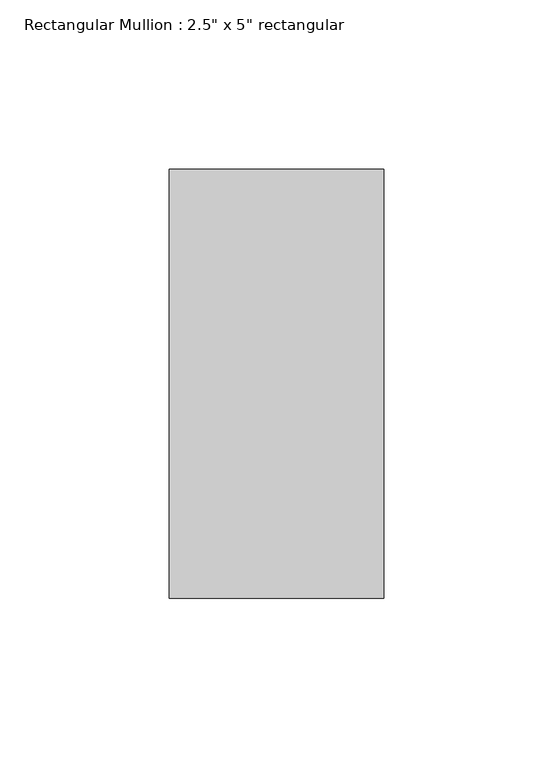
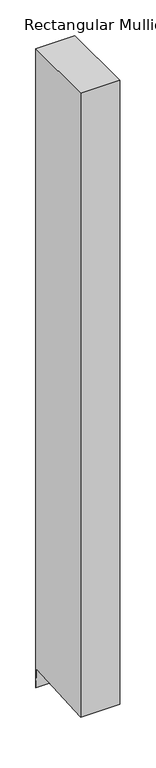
"""IFC4 building model written with IfcOpenShell, lengths in millimetres: member geometry."""

from ifc_helpers import new_model, si_unit, origin, place, context, project, spatial, faceted_brep, source, transform, mapped, element, save


def member_fec0df91(model_context):
    return source(origin(), model_context, "Body", "Brep", [
        faceted_brep([(31.75, 63.5, 0.0), (-31.75, 63.5, 0.0), (-31.75, -63.5, 0.0), (31.75, -63.5, 0.0), (31.75, 63.5, -1095.8481008), (0.0, 63.5, -1095.8481008), (-31.75, 63.5, -1095.8481008), (-31.75, 61.3936206, -1062.1795175), (-31.75, -63.5, -1069.9931324), (0.0, -63.5, -1069.9931324), (31.75, -63.5, -1069.9931324), (31.75, 61.3936206, -1062.1795175), (0.0, 61.3936206, -1062.1795175)], [[[0, 1, 2, 3]], [[1, 0, 4, 5, 6]], [[2, 1, 6, 7, 8]], [[3, 2, 8, 9, 10]], [[0, 3, 10, 11, 4]], [[4, 11, 12, 5]], [[11, 10, 9, 12]], [[9, 8, 7, 12]], [[7, 6, 5, 12]]]),
    ])


if __name__ == "__main__":
    model = new_model("IFC4")
    model_context = context("Model", 3, world=origin())
    ifc_project = project(units=[si_unit("LENGTHUNIT", "METRE", prefix="MILLI")], contexts=[model_context])
    site = spatial("IfcSite", under=ifc_project)
    building = spatial("IfcBuilding", under=site)
    placement = place(None, origin())
    member_shape = member_fec0df91(model_context)
    element("IfcMember", 1, ObjectType="Rectangular Mullion : 2.5\" x 5\" rectangular", at=placement, inside=building, context=model_context, shape_type="MappedRepresentation", body=[
        mapped(member_shape, transform((0.0, 0.0, 0.0), x_axis=(1.0, 0.0, 0.0), y_axis=(0.0, 1.0, 0.0), z_axis=(0.0, 0.0, 1.0))),
    ])
    save(model, "model.ifc")
